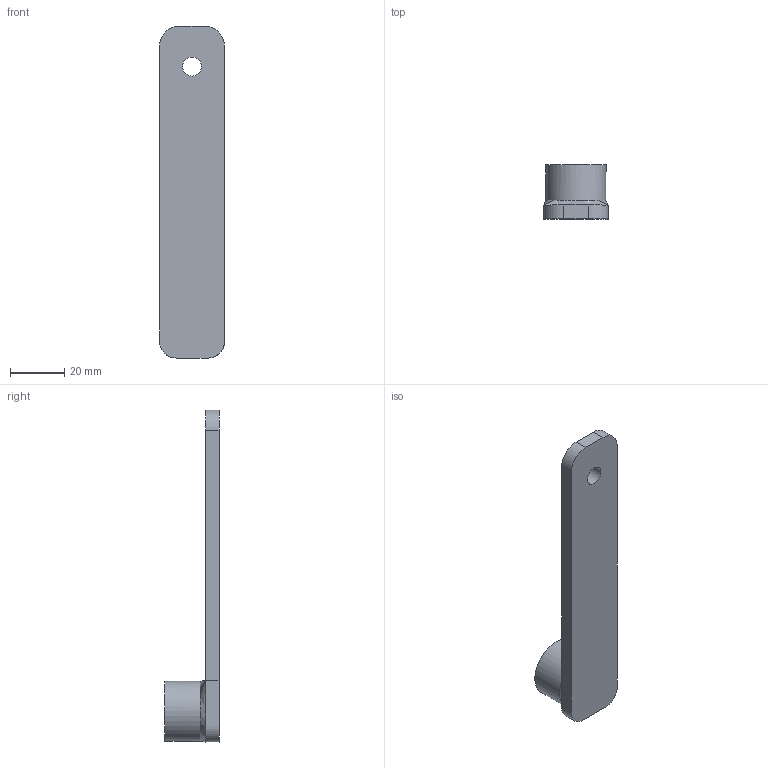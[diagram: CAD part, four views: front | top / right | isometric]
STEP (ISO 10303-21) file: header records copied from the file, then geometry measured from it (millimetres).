
FILE_DESCRIPTION(/* description */ (''),/* implementation_level */ '2;1');
FILE_NAME(/* name */ 'Link_Two.step',/* time_stamp */ '2026-01-10T17:45:18+05:30',/* author */ (''),/* organization */ (''),/* preprocessor_version */ 'ST-DEVELOPER v20.1',/* originating_system */ 'Autodesk Translation Framework v14.21.0.0',/* authorisation */ '');
FILE_SCHEMA (('AUTOMOTIVE_DESIGN { 1 0 10303 214 3 1 1 }'));
Length unit declared in the file: millimetre
Products named in the file (2): (Unsaved); Base Plate
Assembly tree (1 placements, depth 2):
  (Unsaved)
    Base Plate
Bounding box: 24 x 20 x 122.8 mm (x, y, z)
Volume: 19785.4 mm3; surface area: 8491.4 mm2
Topology: 1 solids, 1 shells, 15 faces, 32 edges, 20 vertices
Faces by surface type: plane 7, cylinder 5, bspline 3
Full cylindrical faces by diameter (mm): 6.1 x1, 7 x1, 22.2 x1
Entity records: 746 total; most frequent: CARTESIAN_POINT 365, DIRECTION 68, ORIENTED_EDGE 64, EDGE_CURVE 32, AXIS2_PLACEMENT_3D 25, VERTEX_POINT 20, EDGE_LOOP 18, LINE 18
